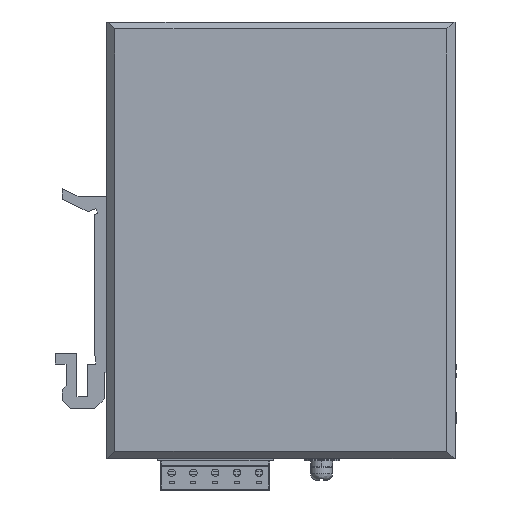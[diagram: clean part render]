
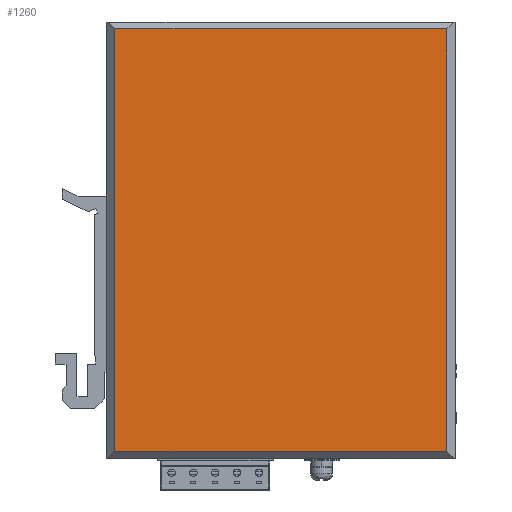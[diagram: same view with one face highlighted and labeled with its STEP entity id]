
A CAD part, left-side view. The second image highlights one B-rep face of the part: STEP entity #1260.
In plain terms, the highlighted planar face has unit normal (-1, 0, 0).
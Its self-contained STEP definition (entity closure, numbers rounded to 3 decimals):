
#33=DIRECTION('',(0.,0.,1.));
#34=VECTOR('',#33,96.7);
#35=CARTESIAN_POINT('',(-22.,2.,-48.3));
#36=LINE('',#35,#34);
#117=DIRECTION('',(0.,1.,0.));
#118=VECTOR('',#117,76.);
#119=CARTESIAN_POINT('',(-22.,2.,48.4));
#120=LINE('',#119,#118);
#121=DIRECTION('',(0.,1.,0.));
#122=VECTOR('',#121,76.);
#123=CARTESIAN_POINT('',(-22.,2.,-48.3));
#124=LINE('',#123,#122);
#133=DIRECTION('',(0.,0.,-1.));
#134=VECTOR('',#133,96.7);
#135=CARTESIAN_POINT('',(-22.,78.,48.4));
#136=LINE('',#135,#134);
#922=CARTESIAN_POINT('',(-22.,2.,-48.3));
#924=VERTEX_POINT('',#922);
#925=CARTESIAN_POINT('',(-22.,2.,48.4));
#926=VERTEX_POINT('',#925);
#931=CARTESIAN_POINT('',(-22.,78.,-48.3));
#932=VERTEX_POINT('',#931);
#959=CARTESIAN_POINT('',(-22.,78.,48.4));
#960=VERTEX_POINT('',#959);
#1248=CARTESIAN_POINT('',(-22.,0.,-50.));
#1249=DIRECTION('',(-1.,0.,0.));
#1250=DIRECTION('',(0.,0.,1.));
#1251=AXIS2_PLACEMENT_3D('',#1248,#1249,#1250);
#1252=PLANE('',#1251);
#1253=ORIENTED_EDGE('',*,*,#1128,.T.);
#1255=ORIENTED_EDGE('',*,*,#1254,.F.);
#1256=ORIENTED_EDGE('',*,*,#1240,.F.);
#1257=ORIENTED_EDGE('',*,*,#1106,.F.);
#1258=EDGE_LOOP('',(#1253,#1255,#1256,#1257));
#1259=FACE_OUTER_BOUND('',#1258,.F.);
#1260=ADVANCED_FACE('',(#1259),#1252,.T.);
#1106=EDGE_CURVE('',#924,#926,#36,.T.);
#1128=EDGE_CURVE('',#924,#932,#124,.T.);
#1240=EDGE_CURVE('',#926,#960,#120,.T.);
#1254=EDGE_CURVE('',#960,#932,#136,.T.);
